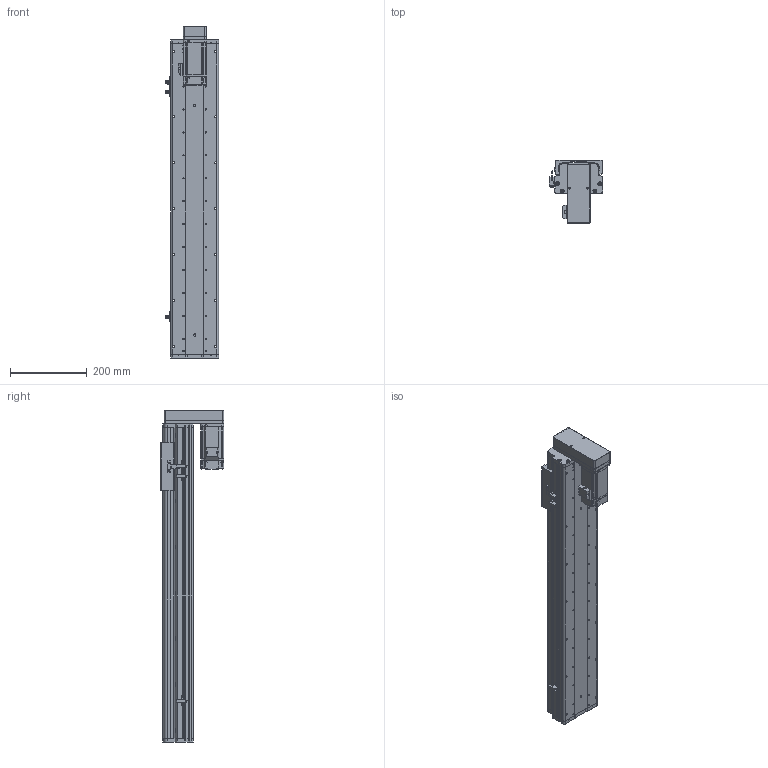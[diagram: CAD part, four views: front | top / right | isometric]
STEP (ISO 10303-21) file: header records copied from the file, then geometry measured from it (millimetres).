
FILE_DESCRIPTION (( 'STEP AP214' ), '1' );
FILE_NAME ('KSD125S-S600-MD-CM.STEP', '2017-10-21T08:08:03', ( '微软用户' ), ( '微软中国' ), 'SwSTEP 2.0', 'SolidWorks 2014', '' );
FILE_SCHEMA (( 'AUTOMOTIVE_DESIGN' ));
Length unit declared in the file: millimetre
Products named in the file (16): KSD125S-S600-MD-CM; 125宽马达安装板连板上下折丝杆同步带; 125遵悵誘欶奻狟殏; HTPA30S3M150_A_H6_a佪裝蚚; HTPA30S3M150_A_H6_a萇儂蚚; KSD125S-600俴最佪裝滅鳥裔; KSD125S-600俴最佪裝菁啣; MHMD042G1CA_2_03; 拸萇儂釱滅袉菜; 拸萇儂釱滅袉菜-1; 覜茼え68遵圉猾敕; U倰嫖萇假蚾璃; U倰嫖萇EEㄜSX672; ヶ傷啣-125遵耀郪; KSD125-賑雄釱1; 125-帣傷啣1
Assembly tree (19 placements, depth 2):
  KSD125S-S600-MD-CM
    125-帣傷啣1
    KSD125-賑雄釱1
    ヶ傷啣-125遵耀郪
    U倰嫖萇EEㄜSX672  x3
    U倰嫖萇假蚾璃  x3
    覜茼え68遵圉猾敕
    拸萇儂釱滅袉菜-1
    拸萇儂釱滅袉菜
    MHMD042G1CA_2_03
    KSD125S-600俴最佪裝菁啣
    KSD125S-600俴最佪裝滅鳥裔
    HTPA30S3M150_A_H6_a萇儂蚚
    HTPA30S3M150_A_H6_a佪裝蚚
    125遵悵誘欶奻狟殏
    125宽马达安装板连板上下折丝杆同步带
Bounding box: 138.7 x 165 x 867.5 mm (x, y, z)
Volume: 2882602.3 mm3; surface area: 988349.3 mm2
Topology: 18 solids, 21 shells, 2201 faces, 6381 edges, 4209 vertices
Faces by surface type: cylinder 1378, plane 682, cone 119, bspline 22
Entity records: 78857 total; most frequent: CARTESIAN_POINT 15775, DIRECTION 12115, ORIENTED_EDGE 11270, EDGE_CURVE 5713, AXIS2_PLACEMENT_3D 4683, VERTEX_POINT 3801, LINE 2749, VECTOR 2749
